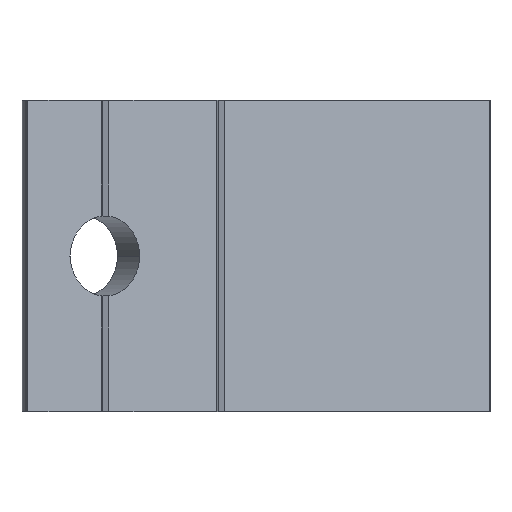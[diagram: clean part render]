
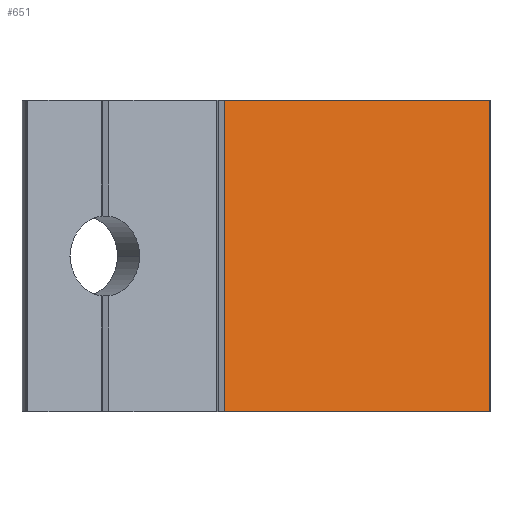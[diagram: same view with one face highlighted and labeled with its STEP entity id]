
A CAD part, left-side view. The second image highlights one B-rep face of the part: STEP entity #651.
In plain terms, the highlighted planar face has unit normal (-0.866, -0.5, 0).
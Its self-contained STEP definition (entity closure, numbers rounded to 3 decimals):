
#3 = DIRECTION ( 'NONE',  ( 0., 0., -1. ) ) ;
#55 = EDGE_CURVE ( 'NONE', #160, #1475, #394, .T. ) ;
#93 = DIRECTION ( 'NONE',  ( 0., 0., -1. ) ) ;
#132 = VECTOR ( 'NONE', #1151, 1000. ) ;
#160 = VERTEX_POINT ( 'NONE', #410 ) ;
#204 = DIRECTION ( 'NONE',  ( -0.866, -0.5, 0. ) ) ;
#229 = EDGE_CURVE ( 'NONE', #1640, #160, #569, .T. ) ;
#282 = DIRECTION ( 'NONE',  ( 0.5, -0.866, 0. ) ) ;
#313 = ORIENTED_EDGE ( 'NONE', *, *, #229, .F. ) ;
#335 = FACE_OUTER_BOUND ( 'NONE', #763, .T. ) ;
#394 = LINE ( 'NONE', #1056, #544 ) ;
#410 = CARTESIAN_POINT ( 'NONE',  ( 0., 0., 35. ) ) ;
#422 = LINE ( 'NONE', #1487, #684 ) ;
#544 = VECTOR ( 'NONE', #3, 1000. ) ;
#553 = ORIENTED_EDGE ( 'NONE', *, *, #1606, .T. ) ;
#569 = LINE ( 'NONE', #1102, #912 ) ;
#578 = AXIS2_PLACEMENT_3D ( 'NONE', #804, #204, #946 ) ;
#592 = CARTESIAN_POINT ( 'NONE',  ( -17.25, 29.878, 35. ) ) ;
#651 = ADVANCED_FACE ( 'NONE', ( #335 ), #1403, .T. ) ;
#684 = VECTOR ( 'NONE', #93, 1000. ) ;
#730 = CARTESIAN_POINT ( 'NONE',  ( -17.25, 29.878, 0. ) ) ;
#763 = EDGE_LOOP ( 'NONE', ( #1660, #313, #840, #553 ) ) ;
#804 = CARTESIAN_POINT ( 'NONE',  ( 0., 0., 0. ) ) ;
#840 = ORIENTED_EDGE ( 'NONE', *, *, #1264, .T. ) ;
#912 = VECTOR ( 'NONE', #282, 1000. ) ;
#946 = DIRECTION ( 'NONE',  ( 0.5, -0.866, 0. ) ) ;
#999 = VERTEX_POINT ( 'NONE', #1457 ) ;
#1056 = CARTESIAN_POINT ( 'NONE',  ( 0., 0., 0. ) ) ;
#1102 = CARTESIAN_POINT ( 'NONE',  ( -17.25, 29.878, 35. ) ) ;
#1151 = DIRECTION ( 'NONE',  ( 0.5, -0.866, 0. ) ) ;
#1264 = EDGE_CURVE ( 'NONE', #1640, #999, #422, .T. ) ;
#1362 = CARTESIAN_POINT ( 'NONE',  ( 0., 0., 0. ) ) ;
#1403 = PLANE ( 'NONE',  #578 ) ;
#1457 = CARTESIAN_POINT ( 'NONE',  ( -17.25, 29.878, 0. ) ) ;
#1475 = VERTEX_POINT ( 'NONE', #1362 ) ;
#1487 = CARTESIAN_POINT ( 'NONE',  ( -17.25, 29.878, 0. ) ) ;
#1538 = LINE ( 'NONE', #730, #132 ) ;
#1606 = EDGE_CURVE ( 'NONE', #999, #1475, #1538, .T. ) ;
#1640 = VERTEX_POINT ( 'NONE', #592 ) ;
#1660 = ORIENTED_EDGE ( 'NONE', *, *, #55, .F. ) ;
